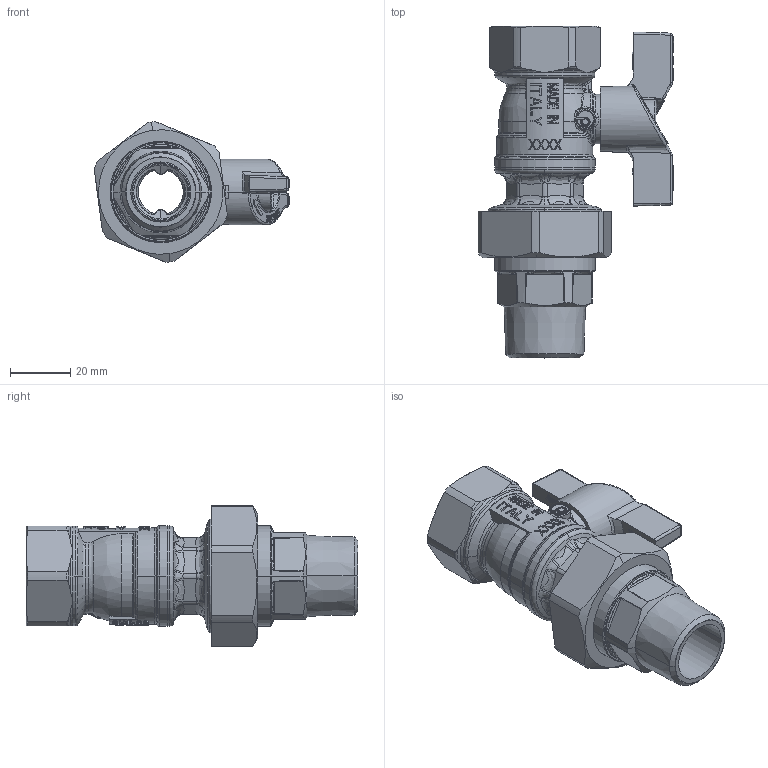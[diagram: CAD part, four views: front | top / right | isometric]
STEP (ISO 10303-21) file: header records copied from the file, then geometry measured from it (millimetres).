
FILE_DESCRIPTION((''),'2;1');
FILE_NAME('T204FU_3-4_3-4M_ASM','2022-05-19T17:08:25',('Sergio.Dandrea'),(''),'CREO PARAMETRIC BY PTC INC, 2021164','CREO PARAMETRIC BY PTC INC, 2021164','');
FILE_SCHEMA(('CONFIG_CONTROL_DESIGN'));
Products named in the file (13): 12002; 12144; 12018; 12019; 12020; 12068; 87057; 03074; SEDE_PTFE_F15; OR_107_8_25X1_475; 89176; 87131; T204FU_3-4_3-4M_ASM
Assembly tree (14 placements, depth 2):
  T204FU_3-4_3-4M_ASM
    12002
    12144
    12018
    12019
    12020
    12068
    87057
    03074
    SEDE_PTFE_F15  x2
    OR_107_8_25X1_475  x2
    89176
    87131
Bounding box: 65.2 x 110.6 x 46.88 mm (x, y, z)
Volume: 68717 mm3; surface area: 49132.4 mm2
Topology: 14 solids, 22 shells, 2025 faces, 5297 edges, 3397 vertices
Faces by surface type: plane 657, bspline 558, extrusion 311, cylinder 238, torus 126, cone 109, revolution 16, sphere 10
Entity records: 85479 total; most frequent: CARTESIAN_POINT 40947, ORIENTED_EDGE 10460, DIRECTION 6885, EDGE_CURVE 5251, VERTEX_POINT 3373, VECTOR 2447, B_SPLINE_CURVE_WITH_KNOTS 2384, AXIS2_PLACEMENT_3D 2215
